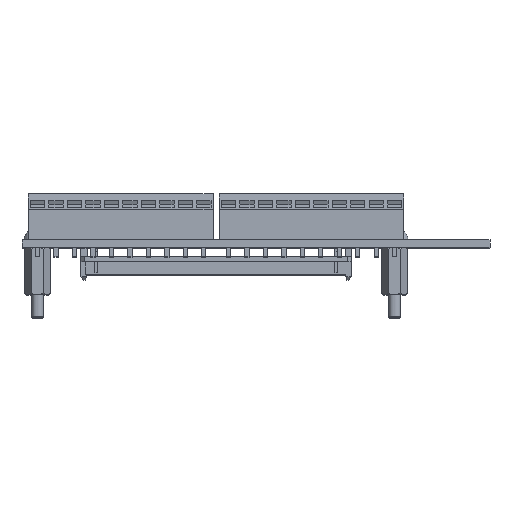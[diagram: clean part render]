
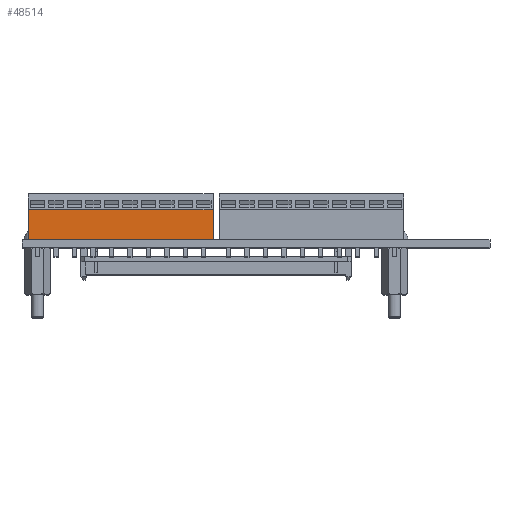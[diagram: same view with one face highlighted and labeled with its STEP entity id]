
A CAD part, top view. The second image highlights one B-rep face of the part: STEP entity #48514.
In plain terms, the highlighted planar face has unit normal (0, 0, 1).
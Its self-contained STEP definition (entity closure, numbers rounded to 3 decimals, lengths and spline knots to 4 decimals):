
#2676=DIRECTION('',(1.,0.,0.));
#2677=VECTOR('',#2676,1.5);
#2678=CARTESIAN_POINT('',(-1.5244,1.5368,2.1252));
#2679=LINE('',#2678,#2677);
#12515=DIRECTION('',(0.,-1.,0.));
#12516=VECTOR('',#12515,0.2461);
#12517=CARTESIAN_POINT('',(-1.5244,1.7828,
2.1252));
#12518=LINE('',#12517,#12516);
#12519=DIRECTION('',(0.,-1.,0.));
#12520=VECTOR('',#12519,0.2461);
#12521=CARTESIAN_POINT('',(-0.0244,1.7828,
2.1252));
#12522=LINE('',#12521,#12520);
#12535=DIRECTION('',(1.,0.,0.));
#12536=VECTOR('',#12535,1.5);
#12537=CARTESIAN_POINT('',(-1.5244,1.7828,
2.1252));
#12538=LINE('',#12537,#12536);
#28934=CARTESIAN_POINT('',(-1.5244,1.7828,
2.1252));
#28935=VERTEX_POINT('',#28934);
#28940=CARTESIAN_POINT('',(-0.0244,1.7828,
2.1252));
#28941=VERTEX_POINT('',#28940);
#29342=CARTESIAN_POINT('',(-1.5244,1.5368,
2.1252));
#29344=VERTEX_POINT('',#29342);
#29346=CARTESIAN_POINT('',(-0.0244,1.5368,
2.1252));
#29348=VERTEX_POINT('',#29346);
#48502=CARTESIAN_POINT('',(-1.5244,1.7828,
2.1252));
#48503=DIRECTION('',(0.,0.,1.));
#48504=DIRECTION('',(0.,-1.,0.));
#48505=AXIS2_PLACEMENT_3D('',#48502,#48503,#48504);
#48506=PLANE('',#48505);
#48507=ORIENTED_EDGE('',*,*,#32153,.F.);
#48508=ORIENTED_EDGE('',*,*,#48467,.F.);
#48510=ORIENTED_EDGE('',*,*,#48509,.T.);
#48511=ORIENTED_EDGE('',*,*,#48492,.T.);
#48512=EDGE_LOOP('',(#48507,#48508,#48510,#48511));
#48513=FACE_OUTER_BOUND('',#48512,.F.);
#48514=ADVANCED_FACE('',(#48513),#48506,.T.);
#32153=EDGE_CURVE('',#29344,#29348,#2679,.T.);
#48467=EDGE_CURVE('',#28935,#29344,#12518,.T.);
#48492=EDGE_CURVE('',#28941,#29348,#12522,.T.);
#48509=EDGE_CURVE('',#28935,#28941,#12538,.T.);
